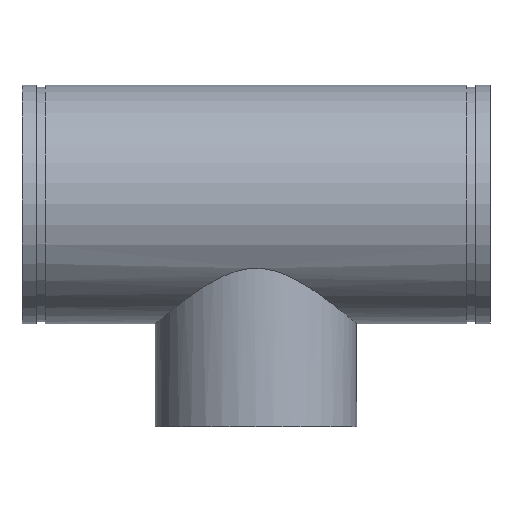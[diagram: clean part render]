
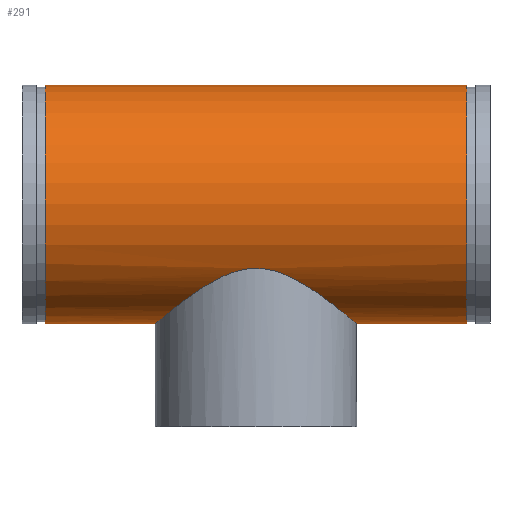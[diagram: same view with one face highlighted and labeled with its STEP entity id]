
A CAD part, top view. The second image highlights one B-rep face of the part: STEP entity #291.
In plain terms, the highlighted cylindrical face has radius 161.925 mm (diameter 323.85 mm), a full revolution.
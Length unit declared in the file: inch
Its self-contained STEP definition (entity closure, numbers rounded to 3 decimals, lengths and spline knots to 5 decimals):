
#45=B_SPLINE_CURVE_WITH_KNOTS('',3,(#511,#512,#513,#514,#515,#516,#517,
#518,#519,#520,#521,#522,#523,#524,#525,#526,#527,#528,#529,#530,#531,#532,
#533,#534,#535,#536,#537,#538,#539,#540,#541,#542,#543,#544,#545,#546,#547,
#548,#549,#550,#551,#552,#553,#554,#555,#556,#557,#558,#559,#560,#561,#562,
#563,#564,#565,#566),.UNSPECIFIED.,.F.,.F.,(4,2,2,2,2,2,2,2,2,2,2,2,2,2,
2,2,2,2,2,2,2,2,2,2,2,2,2,4),(0.,1.42907,2.85814,5.71628,
8.57442,11.43256,14.16483,16.89711,19.62938,
22.36165,25.09392,27.82619,30.55846,33.29073,
36.14887,39.00702,41.86516,43.29423,44.7233,
46.15237,47.58144,50.43958,53.29772,56.15586,
58.88813,61.6204,64.35267,67.08495),
 .UNSPECIFIED.);
#46=B_SPLINE_CURVE_WITH_KNOTS('',3,(#567,#568,#569,#570,#571,#572,#573,
#574,#575,#576,#577,#578,#579,#580,#581,#582,#583,#584,#585,#586),
 .UNSPECIFIED.,.F.,.F.,(4,2,2,2,2,2,2,2,2,4),(67.08495,69.81722,
72.54949,75.28176,78.01403,80.87217,83.73031,
86.58845,88.01752,89.44659),.UNSPECIFIED.);
#51=LINE('',#508,#59);
#59=VECTOR('',#410,6.375);
#67=CYLINDRICAL_SURFACE('',#338,6.375);
#77=FACE_BOUND('',#108,.T.);
#88=FACE_OUTER_BOUND('',#107,.T.);
#107=EDGE_LOOP('',(#221,#222,#223,#224));
#108=EDGE_LOOP('',(#225,#226));
#121=CIRCLE('',#321,6.375);
#132=CIRCLE('',#337,6.375);
#141=VERTEX_POINT('',#476);
#152=VERTEX_POINT('',#505);
#153=VERTEX_POINT('',#509);
#154=VERTEX_POINT('',#510);
#165=EDGE_CURVE('',#141,#141,#121,.T.);
#178=EDGE_CURVE('',#152,#152,#132,.T.);
#179=EDGE_CURVE('',#152,#141,#51,.T.);
#180=EDGE_CURVE('',#153,#154,#45,.T.);
#181=EDGE_CURVE('',#154,#153,#46,.T.);
#221=ORIENTED_EDGE('',*,*,#178,.T.);
#222=ORIENTED_EDGE('',*,*,#179,.T.);
#223=ORIENTED_EDGE('',*,*,#165,.T.);
#224=ORIENTED_EDGE('',*,*,#179,.F.);
#225=ORIENTED_EDGE('',*,*,#180,.F.);
#226=ORIENTED_EDGE('',*,*,#181,.F.);
#291=ADVANCED_FACE('',(#88,#77),#67,.T.);
#321=AXIS2_PLACEMENT_3D('',#477,#372,#373);
#337=AXIS2_PLACEMENT_3D('',#506,#406,#407);
#338=AXIS2_PLACEMENT_3D('',#507,#408,#409);
#372=DIRECTION('center_axis',(-1.,0.,0.));
#373=DIRECTION('ref_axis',(0.,-1.,0.));
#406=DIRECTION('center_axis',(1.,0.,0.));
#407=DIRECTION('ref_axis',(0.,-1.,0.));
#408=DIRECTION('center_axis',(-1.,0.,0.));
#409=DIRECTION('ref_axis',(0.,-1.,0.));
#410=DIRECTION('',(1.,0.,0.));
#476=CARTESIAN_POINT('',(11.25,6.375,0.));
#477=CARTESIAN_POINT('Origin',(11.25,0.,0.));
#505=CARTESIAN_POINT('',(-11.25,6.375,0.));
#506=CARTESIAN_POINT('Origin',(-11.25,0.,0.));
#507=CARTESIAN_POINT('Origin',(12.5,0.,0.));
#508=CARTESIAN_POINT('',(12.5,6.375,0.));
#509=CARTESIAN_POINT('',(0.,-3.42783,-5.375));
#510=CARTESIAN_POINT('',(-5.375,-6.375,0.));
#511=CARTESIAN_POINT('Ctrl Pts',(0.,-3.42783,-5.375));
#512=CARTESIAN_POINT('Ctrl Pts',(0.18754,-3.42783,-5.375));
#513=CARTESIAN_POINT('Ctrl Pts',(0.37281,-3.44334,-5.36519));
#514=CARTESIAN_POINT('Ctrl Pts',(0.73753,-3.50165,-5.32732));
#515=CARTESIAN_POINT('Ctrl Pts',(0.917,-3.5444,-5.29925));
#516=CARTESIAN_POINT('Ctrl Pts',(1.44528,-3.70489,-5.18953));
#517=CARTESIAN_POINT('Ctrl Pts',(1.78419,-3.85459,-5.08233));
#518=CARTESIAN_POINT('Ctrl Pts',(2.42892,-4.19216,-4.80768));
#519=CARTESIAN_POINT('Ctrl Pts',(2.73485,-4.37994,-4.63997));
#520=CARTESIAN_POINT('Ctrl Pts',(3.3034,-4.75572,-4.25397));
#521=CARTESIAN_POINT('Ctrl Pts',(3.56588,-4.94376,-4.03552));
#522=CARTESIAN_POINT('Ctrl Pts',(4.02518,-5.28483,-3.57622));
#523=CARTESIAN_POINT('Ctrl Pts',(4.24078,-5.45162,-3.32026));
#524=CARTESIAN_POINT('Ctrl Pts',(4.6285,-5.75838,-2.75414));
#525=CARTESIAN_POINT('Ctrl Pts',(4.80062,-5.89827,-2.44393));
#526=CARTESIAN_POINT('Ctrl Pts',(5.08234,-6.12975,-1.78566));
#527=CARTESIAN_POINT('Ctrl Pts',(5.19219,-6.22152,-1.4368));
#528=CARTESIAN_POINT('Ctrl Pts',(5.33855,-6.34417,-0.72327));
#529=CARTESIAN_POINT('Ctrl Pts',(5.375,-6.375,-0.35857));
#530=CARTESIAN_POINT('Ctrl Pts',(5.375,-6.375,0.35857));
#531=CARTESIAN_POINT('Ctrl Pts',(5.33855,-6.34417,0.72327));
#532=CARTESIAN_POINT('Ctrl Pts',(5.19219,-6.22152,1.4368));
#533=CARTESIAN_POINT('Ctrl Pts',(5.08234,-6.12975,1.78566));
#534=CARTESIAN_POINT('Ctrl Pts',(4.80062,-5.89827,2.44393));
#535=CARTESIAN_POINT('Ctrl Pts',(4.6285,-5.75838,2.75414));
#536=CARTESIAN_POINT('Ctrl Pts',(4.24078,-5.45162,3.32026));
#537=CARTESIAN_POINT('Ctrl Pts',(4.02518,-5.28483,3.57622));
#538=CARTESIAN_POINT('Ctrl Pts',(3.56588,-4.94376,4.03552));
#539=CARTESIAN_POINT('Ctrl Pts',(3.3034,-4.75572,4.25397));
#540=CARTESIAN_POINT('Ctrl Pts',(2.73485,-4.37994,4.63997));
#541=CARTESIAN_POINT('Ctrl Pts',(2.42892,-4.19216,4.80768));
#542=CARTESIAN_POINT('Ctrl Pts',(1.78419,-3.85459,5.08233));
#543=CARTESIAN_POINT('Ctrl Pts',(1.44528,-3.70489,5.18953));
#544=CARTESIAN_POINT('Ctrl Pts',(0.917,-3.5444,5.29925));
#545=CARTESIAN_POINT('Ctrl Pts',(0.73753,-3.50165,5.32732));
#546=CARTESIAN_POINT('Ctrl Pts',(0.37281,-3.44334,5.36519));
#547=CARTESIAN_POINT('Ctrl Pts',(0.18754,-3.42783,5.375));
#548=CARTESIAN_POINT('Ctrl Pts',(-0.18754,-3.42783,5.375));
#549=CARTESIAN_POINT('Ctrl Pts',(-0.37281,-3.44334,5.36519));
#550=CARTESIAN_POINT('Ctrl Pts',(-0.73753,-3.50165,5.32732));
#551=CARTESIAN_POINT('Ctrl Pts',(-0.917,-3.5444,5.29925));
#552=CARTESIAN_POINT('Ctrl Pts',(-1.44528,-3.70489,5.18953));
#553=CARTESIAN_POINT('Ctrl Pts',(-1.78419,-3.85459,5.08233));
#554=CARTESIAN_POINT('Ctrl Pts',(-2.42892,-4.19216,4.80768));
#555=CARTESIAN_POINT('Ctrl Pts',(-2.73485,-4.37994,4.63997));
#556=CARTESIAN_POINT('Ctrl Pts',(-3.3034,-4.75572,4.25397));
#557=CARTESIAN_POINT('Ctrl Pts',(-3.56588,-4.94376,4.03552));
#558=CARTESIAN_POINT('Ctrl Pts',(-4.02518,-5.28483,3.57622));
#559=CARTESIAN_POINT('Ctrl Pts',(-4.24078,-5.45162,3.32026));
#560=CARTESIAN_POINT('Ctrl Pts',(-4.6285,-5.75838,2.75414));
#561=CARTESIAN_POINT('Ctrl Pts',(-4.80062,-5.89827,2.44393));
#562=CARTESIAN_POINT('Ctrl Pts',(-5.08234,-6.12975,1.78566));
#563=CARTESIAN_POINT('Ctrl Pts',(-5.19219,-6.22152,1.4368));
#564=CARTESIAN_POINT('Ctrl Pts',(-5.33855,-6.34417,0.72327));
#565=CARTESIAN_POINT('Ctrl Pts',(-5.375,-6.375,0.35857));
#566=CARTESIAN_POINT('Ctrl Pts',(-5.375,-6.375,0.));
#567=CARTESIAN_POINT('Ctrl Pts',(-5.375,-6.375,0.));
#568=CARTESIAN_POINT('Ctrl Pts',(-5.375,-6.375,-0.35857));
#569=CARTESIAN_POINT('Ctrl Pts',(-5.33855,-6.34417,-0.72327));
#570=CARTESIAN_POINT('Ctrl Pts',(-5.19219,-6.22152,-1.4368));
#571=CARTESIAN_POINT('Ctrl Pts',(-5.08234,-6.12975,-1.78566));
#572=CARTESIAN_POINT('Ctrl Pts',(-4.80062,-5.89827,-2.44393));
#573=CARTESIAN_POINT('Ctrl Pts',(-4.6285,-5.75838,-2.75414));
#574=CARTESIAN_POINT('Ctrl Pts',(-4.24078,-5.45162,-3.32026));
#575=CARTESIAN_POINT('Ctrl Pts',(-4.02518,-5.28483,-3.57622));
#576=CARTESIAN_POINT('Ctrl Pts',(-3.56588,-4.94376,-4.03552));
#577=CARTESIAN_POINT('Ctrl Pts',(-3.3034,-4.75572,-4.25397));
#578=CARTESIAN_POINT('Ctrl Pts',(-2.73485,-4.37994,-4.63997));
#579=CARTESIAN_POINT('Ctrl Pts',(-2.42892,-4.19216,-4.80768));
#580=CARTESIAN_POINT('Ctrl Pts',(-1.78419,-3.85459,-5.08233));
#581=CARTESIAN_POINT('Ctrl Pts',(-1.44528,-3.70489,-5.18953));
#582=CARTESIAN_POINT('Ctrl Pts',(-0.917,-3.5444,-5.29925));
#583=CARTESIAN_POINT('Ctrl Pts',(-0.73753,-3.50165,-5.32732));
#584=CARTESIAN_POINT('Ctrl Pts',(-0.37281,-3.44334,-5.36519));
#585=CARTESIAN_POINT('Ctrl Pts',(-0.18754,-3.42783,-5.375));
#586=CARTESIAN_POINT('Ctrl Pts',(0.,-3.42783,-5.375));
